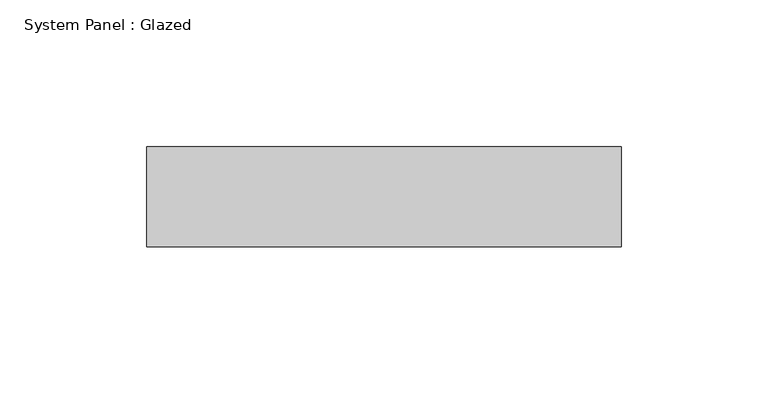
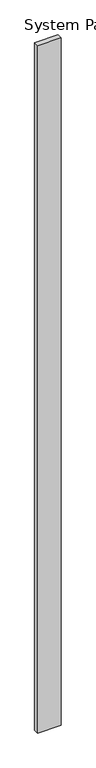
"""IFC4 building model written with IfcOpenShell, lengths in millimetres: plate geometry, System Panel : Glazed."""

from ifc_helpers import new_model, si_unit, origin, origin_with_axes, place, context, project, spatial, polyline, outline, extrude, source, transform, mapped, element, save


def system_panel_glazed_01cf7e5e(model_context):
    return source(origin(), model_context, "Body", "SweptSolid", [
        extrude(outline(polyline([(80.8333333, -17.0), (-80.8333333, -17.0), (-80.8333333, 17.0), (80.8333333, 17.0), (80.8333333, -17.0)])), origin_with_axes(), (0.0, 0.0, 1.0), 5000.0),
    ])


if __name__ == "__main__":
    model = new_model("IFC4")
    model_context = context("Model", 3, world=origin())
    ifc_project = project(units=[si_unit("LENGTHUNIT", "METRE", prefix="MILLI")], contexts=[model_context])
    site = spatial("IfcSite", under=ifc_project)
    building = spatial("IfcBuilding", under=site)
    placement = place(None, origin())
    system_panel_glazed_shape = system_panel_glazed_01cf7e5e(model_context)
    element("IfcPlate", 1, ObjectType="System Panel : Glazed", at=placement, inside=building, context=model_context, shape_type="MappedRepresentation", body=[
        mapped(system_panel_glazed_shape, transform((0.0, 0.0, 0.0), x_axis=(1.0, 0.0, 0.0), y_axis=(0.0, 1.0, 0.0), z_axis=(0.0, 0.0, 1.0))),
    ])
    save(model, "model.ifc")
